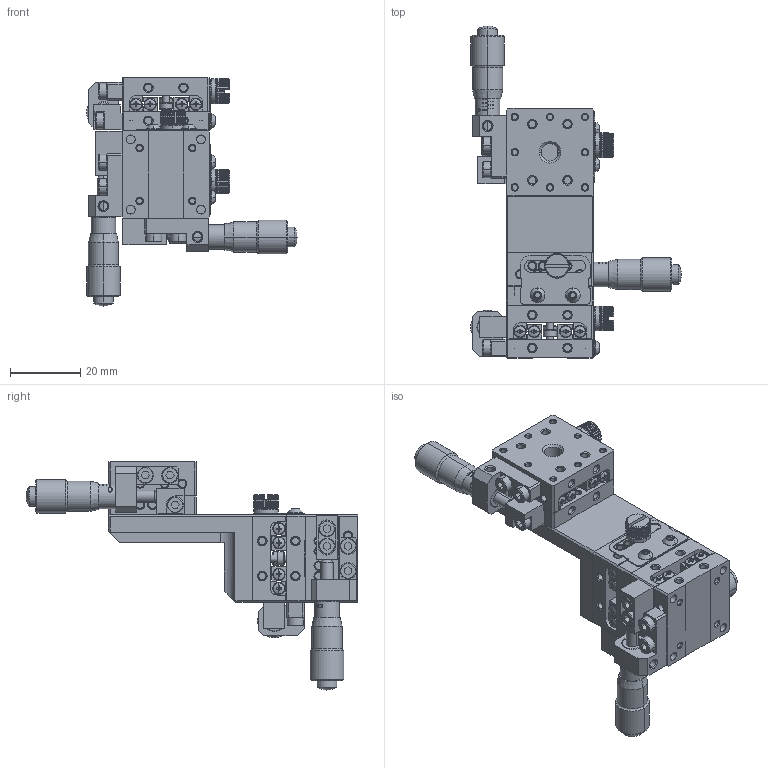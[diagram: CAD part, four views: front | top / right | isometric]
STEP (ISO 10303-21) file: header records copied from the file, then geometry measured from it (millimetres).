
FILE_DESCRIPTION((''),'2;1');
FILE_NAME('025-025-30-ST6-XYZ-L-STEEL_ASM','2022-11-15T14:54:31',('windows10'),(''),'CREO PARAMETRIC BY PTC INC, 2018260','CREO PARAMETRIC BY PTC INC, 2018260','');
FILE_SCHEMA(('CONFIG_CONTROL_DESIGN'));
Length unit declared in the file: millimetre
Products named in the file (20): BOTTOM-025-025-010-A; TOP-025-025-010-A; 1D6-2-ROUND-PLUS; STOPPER-PLATE-2530; 2D5-4-ROUND; WASHER-7-1D4; STOPPER-M2D5-8-8; PIN-BLOCK-013-008-006-A; HEAD-BLOCK-018-013-010-RA; MICRO-HEAD-6D5-SJP; 2D5-8; 2-5; 025-025-15-ST6-X-R-STEEL_ASM; 025-025-30-ST6-XY-R-STEEL_ASM; BRACKET-L-25-TAP; PIN-BLOCK-25-REVERSE-R; HEAD-BLOCK-018-013-010-LA; 025-025-15-ST6-X-R-RVS-STEEL_ASM; 025-025-15-ST6-Z-L-STEEL_ASM; 025-025-30-ST6-XYZ-L-STEEL_ASM
Assembly tree (53 placements, depth 4):
  025-025-30-ST6-XYZ-L-STEEL_ASM
    025-025-30-ST6-XY-R-STEEL_ASM
      025-025-15-ST6-X-R-STEEL_ASM  x2
        BOTTOM-025-025-010-A
        TOP-025-025-010-A
        1D6-2-ROUND-PLUS
        STOPPER-PLATE-2530
        2D5-4-ROUND
        WASHER-7-1D4
        STOPPER-M2D5-8-8
        PIN-BLOCK-013-008-006-A
        HEAD-BLOCK-018-013-010-RA
        MICRO-HEAD-6D5-SJP
        2D5-8
        2-5
    025-025-15-ST6-Z-L-STEEL_ASM
      BRACKET-L-25-TAP
      025-025-15-ST6-X-R-RVS-STEEL_ASM
        BOTTOM-025-025-010-A
        TOP-025-025-010-A
        1D6-2-ROUND-PLUS  x8
        STOPPER-PLATE-2530
        2D5-4-ROUND  x2
        WASHER-7-1D4
        STOPPER-M2D5-8-8
        PIN-BLOCK-25-REVERSE-R
        HEAD-BLOCK-018-013-010-LA
        MICRO-HEAD-6D5-SJP
        2D5-8  x3
        2-5  x2
Bounding box: 60.05 x 94.45 x 64.95 mm (x, y, z)
Volume: 40009.4 mm3; surface area: 38701.1 mm2
Topology: 75 solids, 78 shells, 3501 faces, 8271 edges, 5246 vertices
Faces by surface type: plane 1717, cylinder 958, cone 634, torus 120, sphere 60, bspline 12
Entity records: 29261 total; most frequent: CARTESIAN_POINT 5745, DIRECTION 5068, ORIENTED_EDGE 4600, EDGE_CURVE 2302, AXIS2_PLACEMENT_3D 1952, VERTEX_POINT 1472, VECTOR 1164, LINE 1164
